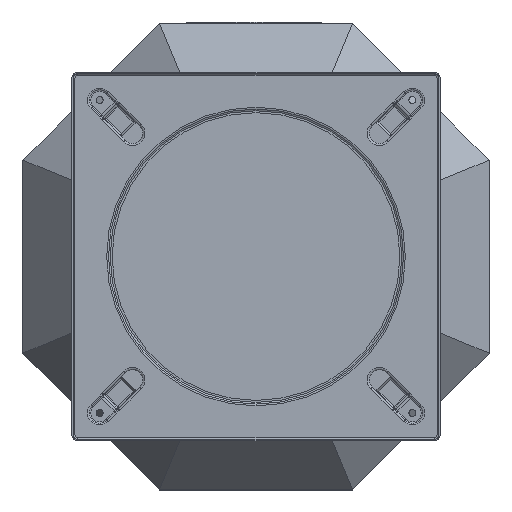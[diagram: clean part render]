
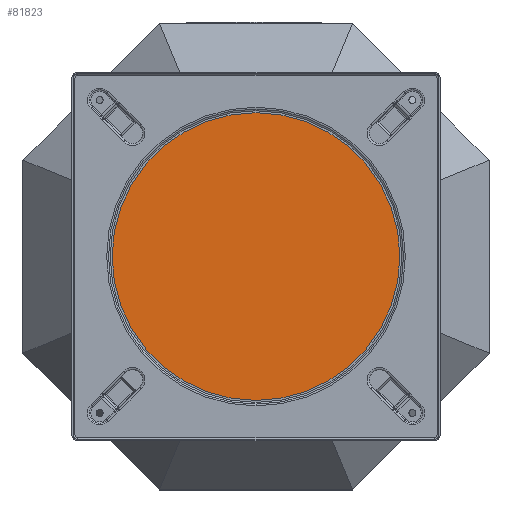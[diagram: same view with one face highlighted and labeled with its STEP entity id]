
A CAD part, top view. The second image highlights one B-rep face of the part: STEP entity #81823.
In plain terms, the highlighted planar face has unit normal (0, 0, 1).
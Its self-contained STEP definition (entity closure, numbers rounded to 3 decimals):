
#4739=CIRCLE('',#88840,245.928);
#4740=CIRCLE('',#88841,245.928);
#9806=FACE_OUTER_BOUND('',#14493,.T.);
#14493=EDGE_LOOP('',(#70809,#70810));
#37434=VERTEX_POINT('',#138034);
#37435=VERTEX_POINT('',#138035);
#48605=EDGE_CURVE('',#37434,#37435,#4739,.T.);
#48606=EDGE_CURVE('',#37435,#37434,#4740,.T.);
#70809=ORIENTED_EDGE('',*,*,#48605,.T.);
#70810=ORIENTED_EDGE('',*,*,#48606,.T.);
#74017=PLANE('',#88842);
#81823=ADVANCED_FACE('',(#9806),#74017,.T.);
#88840=AXIS2_PLACEMENT_3D('',#138036,#109909,#109910);
#88841=AXIS2_PLACEMENT_3D('',#138037,#109911,#109912);
#88842=AXIS2_PLACEMENT_3D('',#138039,#109914,#109915);
#109909=DIRECTION('center_axis',(0.,0.,1.));
#109910=DIRECTION('ref_axis',(-1.,0.,0.));
#109911=DIRECTION('center_axis',(0.,0.,1.));
#109912=DIRECTION('ref_axis',(-1.,0.,0.));
#109914=DIRECTION('center_axis',(0.,0.,1.));
#109915=DIRECTION('ref_axis',(-1.,0.,0.));
#138034=CARTESIAN_POINT('',(464.602,633.252,464.25));
#138035=CARTESIAN_POINT('',(956.458,633.252,464.25));
#138036=CARTESIAN_POINT('Origin',(710.53,633.252,464.25));
#138037=CARTESIAN_POINT('Origin',(710.53,633.252,464.25));
#138039=CARTESIAN_POINT('Origin',(710.53,633.252,464.25));
